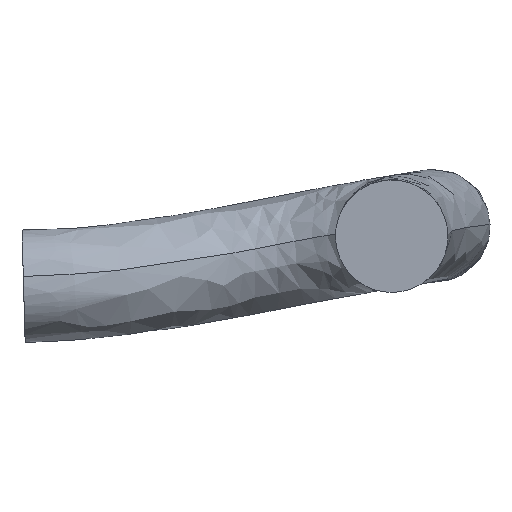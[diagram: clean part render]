
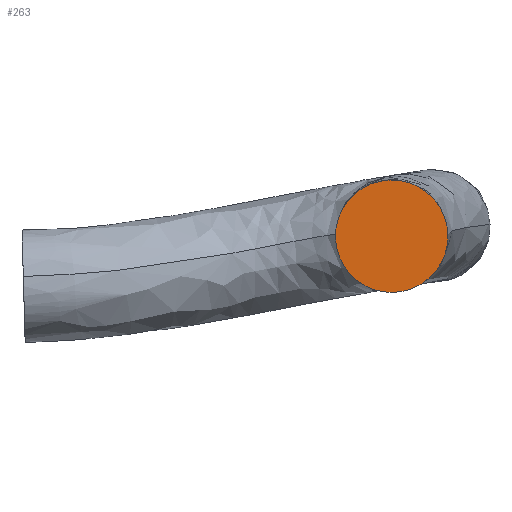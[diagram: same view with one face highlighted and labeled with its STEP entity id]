
A CAD part, front view. The second image highlights one B-rep face of the part: STEP entity #263.
In plain terms, the highlighted planar face has unit normal (0.001, -1, -0.027).
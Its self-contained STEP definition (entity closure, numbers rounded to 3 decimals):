
#1 = AXIS2_PLACEMENT_3D ( 'NONE', #288, #366, #111 ) ;
#53 = CIRCLE ( 'NONE', #569, 31.1 ) ;
#57 = VERTEX_POINT ( 'NONE', #524 ) ;
#111 = DIRECTION ( 'NONE',  ( 1., 0., 0.028 ) ) ;
#161 = DIRECTION ( 'NONE',  ( 1., 0., 0.028 ) ) ;
#263 = ADVANCED_FACE ( 'NONE', ( #775 ), #803, .F. ) ;
#288 = CARTESIAN_POINT ( 'NONE',  ( 1956.298, -71.293, 1830.009 ) ) ;
#323 = EDGE_CURVE ( 'NONE', #57, #444, #361, .T. ) ;
#360 = CARTESIAN_POINT ( 'NONE',  ( 1956.298, -71.293, 1830.009 ) ) ;
#361 = CIRCLE ( 'NONE', #589, 31.1 ) ;
#366 = DIRECTION ( 'NONE',  ( -0.001, 1., 0.027 ) ) ;
#444 = VERTEX_POINT ( 'NONE', #760 ) ;
#524 = CARTESIAN_POINT ( 'NONE',  ( 1925.211, -71.293, 1829.135 ) ) ;
#526 = EDGE_CURVE ( 'NONE', #444, #57, #53, .T. ) ;
#529 = ORIENTED_EDGE ( 'NONE', *, *, #526, .F. ) ;
#547 = DIRECTION ( 'NONE',  ( -0.001, 1., 0.027 ) ) ;
#563 = DIRECTION ( 'NONE',  ( -0.001, 1., 0.027 ) ) ;
#569 = AXIS2_PLACEMENT_3D ( 'NONE', #766, #563, #161 ) ;
#589 = AXIS2_PLACEMENT_3D ( 'NONE', #360, #547, #831 ) ;
#593 = EDGE_LOOP ( 'NONE', ( #529, #658 ) ) ;
#658 = ORIENTED_EDGE ( 'NONE', *, *, #323, .F. ) ;
#760 = CARTESIAN_POINT ( 'NONE',  ( 1987.386, -71.293, 1830.883 ) ) ;
#766 = CARTESIAN_POINT ( 'NONE',  ( 1956.298, -71.293, 1830.009 ) ) ;
#775 = FACE_OUTER_BOUND ( 'NONE', #593, .T. ) ;
#803 = PLANE ( 'NONE',  #1 ) ;
#831 = DIRECTION ( 'NONE',  ( 1., 0., 0.028 ) ) ;
